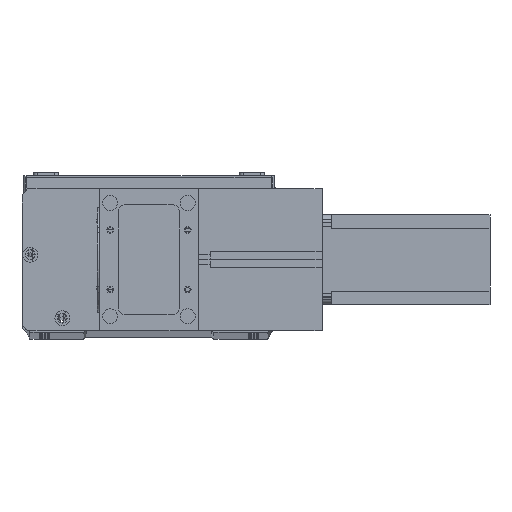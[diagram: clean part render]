
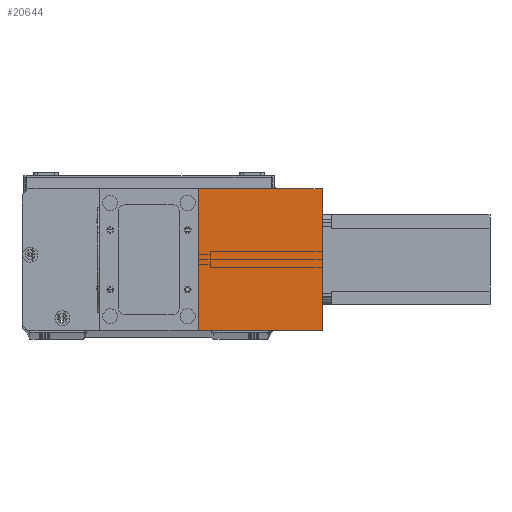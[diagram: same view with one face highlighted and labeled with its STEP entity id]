
A CAD part, top view. The second image highlights one B-rep face of the part: STEP entity #20644.
In plain terms, the highlighted planar face has unit normal (0, 0, 1) as drawn and (1, 0, 0) by its records, which use the part's own axes.
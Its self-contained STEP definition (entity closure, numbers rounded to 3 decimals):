
#748 = DIRECTION ( 'NONE',  ( 0., 0., 1. ) ) ;
#1042 = EDGE_CURVE ( 'NONE', #15750, #27577, #16989, .T. ) ;
#1399 = AXIS2_PLACEMENT_3D ( 'NONE', #29274, #15054, #748 ) ;
#1459 = ORIENTED_EDGE ( 'NONE', *, *, #1042, .F. ) ;
#2416 = FACE_OUTER_BOUND ( 'NONE', #26768, .T. ) ;
#2641 = EDGE_CURVE ( 'NONE', #21307, #27577, #12888, .T. ) ;
#3011 = CARTESIAN_POINT ( 'NONE',  ( 82., 95., 83. ) ) ;
#3516 = VECTOR ( 'NONE', #15640, 1000. ) ;
#4048 = CARTESIAN_POINT ( 'NONE',  ( 82., 0., 83. ) ) ;
#5834 = VECTOR ( 'NONE', #18249, 1000. ) ;
#6583 = CARTESIAN_POINT ( 'NONE',  ( 82., 0., 83. ) ) ;
#7061 = CARTESIAN_POINT ( 'NONE',  ( 82., 95., 83. ) ) ;
#8245 = ORIENTED_EDGE ( 'NONE', *, *, #23509, .T. ) ;
#8623 = CARTESIAN_POINT ( 'NONE',  ( 82., 0., 83. ) ) ;
#10128 = LINE ( 'NONE', #4048, #22007 ) ;
#12888 = LINE ( 'NONE', #18378, #5834 ) ;
#13652 = DIRECTION ( 'NONE',  ( 0., 1., 0. ) ) ;
#14095 = VECTOR ( 'NONE', #22856, 1000. ) ;
#15054 = DIRECTION ( 'NONE',  ( -1., 0., 0. ) ) ;
#15640 = DIRECTION ( 'NONE',  ( 0., 0., -1. ) ) ;
#15750 = VERTEX_POINT ( 'NONE', #3011 ) ;
#16989 = LINE ( 'NONE', #7061, #3516 ) ;
#18249 = DIRECTION ( 'NONE',  ( 0., 1., 0. ) ) ;
#18378 = CARTESIAN_POINT ( 'NONE',  ( 82., 0., 0. ) ) ;
#18896 = CARTESIAN_POINT ( 'NONE',  ( 82., 95., 0. ) ) ;
#18900 = EDGE_CURVE ( 'NONE', #20924, #15750, #10128, .T. ) ;
#20644 = ADVANCED_FACE ( 'NONE', ( #2416 ), #24607, .F. ) ;
#20924 = VERTEX_POINT ( 'NONE', #6583 ) ;
#21307 = VERTEX_POINT ( 'NONE', #24886 ) ;
#21807 = ORIENTED_EDGE ( 'NONE', *, *, #2641, .T. ) ;
#22007 = VECTOR ( 'NONE', #13652, 1000. ) ;
#22856 = DIRECTION ( 'NONE',  ( 0., 0., -1. ) ) ;
#23509 = EDGE_CURVE ( 'NONE', #20924, #21307, #26787, .T. ) ;
#23988 = ORIENTED_EDGE ( 'NONE', *, *, #18900, .F. ) ;
#24607 = PLANE ( 'NONE',  #1399 ) ;
#24886 = CARTESIAN_POINT ( 'NONE',  ( 82., 0., 0. ) ) ;
#26768 = EDGE_LOOP ( 'NONE', ( #21807, #1459, #23988, #8245 ) ) ;
#26787 = LINE ( 'NONE', #8623, #14095 ) ;
#27577 = VERTEX_POINT ( 'NONE', #18896 ) ;
#29274 = CARTESIAN_POINT ( 'NONE',  ( 82., 0., 83. ) ) ;
